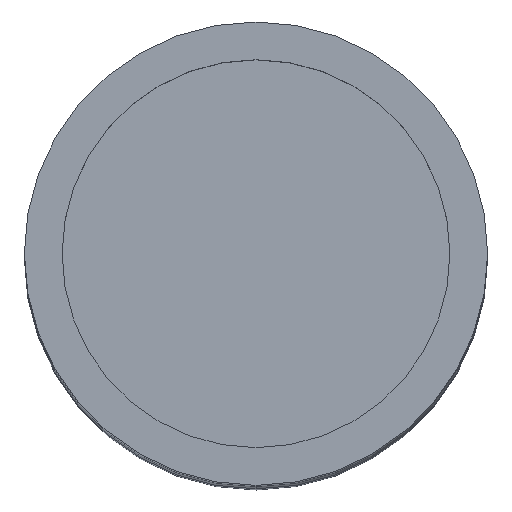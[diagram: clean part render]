
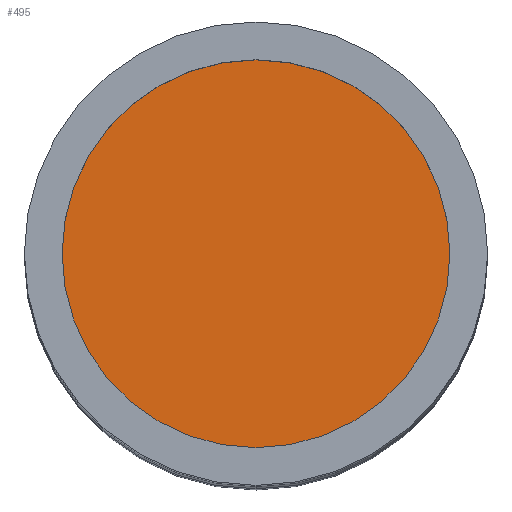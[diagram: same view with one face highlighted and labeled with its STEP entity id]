
A CAD part, top view. The second image highlights one B-rep face of the part: STEP entity #495.
In plain terms, the highlighted planar face has unit normal (0, 0, 1).
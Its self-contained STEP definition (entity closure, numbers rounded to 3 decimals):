
#162=CARTESIAN_POINT('',(0.,0.,-1.));
#163=DIRECTION('',(0.,0.,1.));
#164=DIRECTION('',(0.,1.,0.));
#165=AXIS2_PLACEMENT_3D('',#162,#163,#164);
#167=CARTESIAN_POINT('',(0.,0.,-1.));
#168=DIRECTION('',(0.,0.,-1.));
#169=DIRECTION('',(0.,1.,0.));
#170=AXIS2_PLACEMENT_3D('',#167,#168,#169);
#389=CARTESIAN_POINT('',(0.,2.35,-1.));
#391=VERTEX_POINT('',#389);
#397=CARTESIAN_POINT('',(0.,-2.35,-1.));
#399=VERTEX_POINT('',#397);
#486=CARTESIAN_POINT('',(0.,0.,-1.));
#487=DIRECTION('',(0.,0.,-1.));
#488=DIRECTION('',(0.,-1.,0.));
#489=AXIS2_PLACEMENT_3D('',#486,#487,#488);
#490=PLANE('',#489);
#491=ORIENTED_EDGE('',*,*,#479,.F.);
#492=ORIENTED_EDGE('',*,*,#468,.T.);
#493=EDGE_LOOP('',(#491,#492));
#494=FACE_OUTER_BOUND('',#493,.F.);
#166=CIRCLE('',#165,2.35);
#171=CIRCLE('',#170,2.35);
#468=EDGE_CURVE('',#391,#399,#171,.T.);
#479=EDGE_CURVE('',#391,#399,#166,.T.);
#495=ADVANCED_FACE('',(#494),#490,.F.);
